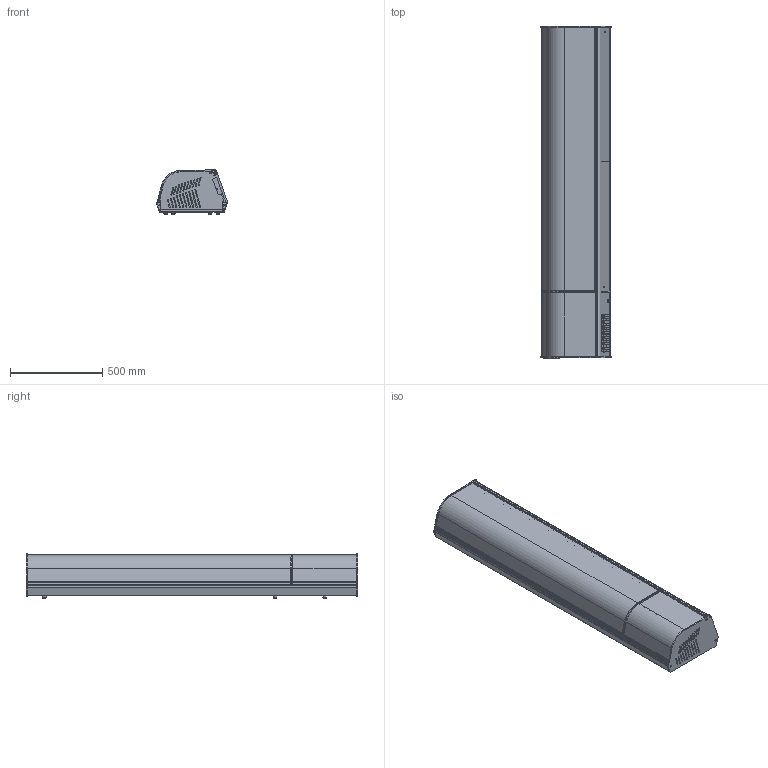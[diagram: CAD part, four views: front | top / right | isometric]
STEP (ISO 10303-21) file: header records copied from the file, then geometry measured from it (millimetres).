
FILE_DESCRIPTION(/* description */ ('Unknown'),/* implementation_level */ '2;1');
FILE_NAME(/* name */ 'vitrina sushi 8B',/* time_stamp */ '2018-04-24T13:20:55+02:00',/* author */ ('Unknown'),/* organization */ ('Unknown'),/* preprocessor_version */ 'ST-DEVELOPER v16.7',/* originating_system */ 'DEX',/* authorisation */ $);
FILE_SCHEMA (('CONFIG_CONTROL_DESIGN'));
Length unit declared in the file: millimetre
Products named in the file (19): vitrina sushi 8B; 46-1+8B+V1_oa_0; 46-5; 46-1+8B+V1_oa_1; 46-36; 46-3+uc; 46-3+8B; 46-15+8B_v1; 46-68; 46-12+6702; 46-23+8B_SIMPLE_V1; 46-18+8B_sushi; 46-51+U_C._oa_2; 46-25+6705; 46-40; 46-78_oa_3; 46-9+6701; 46-82_oa_4; 46-38
Assembly tree (24 placements, depth 3):
  vitrina sushi 8B
    46-1+8B+V1_oa_0
    46-5
    46-1+8B+V1_oa_1
    46-36
    46-3+uc
    46-3+8B
    46-15+8B_v1
    46-68
    46-12+6702
    46-23+8B_SIMPLE_V1  x2
    46-18+8B_sushi
    46-51+U_C._oa_2
      46-25+6705
    46-40  x6
    46-78_oa_3
      46-9+6701
    46-82_oa_4
      46-38
Bounding box: 383.15 x 1797 x 241.45 mm (x, y, z)
Volume: 7521677.2 mm3; surface area: 5890982.7 mm2
Topology: 21 solids, 21 shells, 1299 faces, 3699 edges, 2447 vertices
Faces by surface type: plane 973, cylinder 290, cone 18, bspline 12, torus 6
Full cylindrical faces by diameter (mm): 3 x4, 3.5 x2, 5 x4, 5.5 x4, 6 x9, 8 x19, 16.5 x1, 28 x2, 30 x2
Entity records: 43251 total; most frequent: CARTESIAN_POINT 7565, ORIENTED_EDGE 7130, DIRECTION 6645, EDGE_CURVE 3565, LINE 2965, VECTOR 2965, VERTEX_POINT 2388, AXIS2_PLACEMENT_3D 1840
